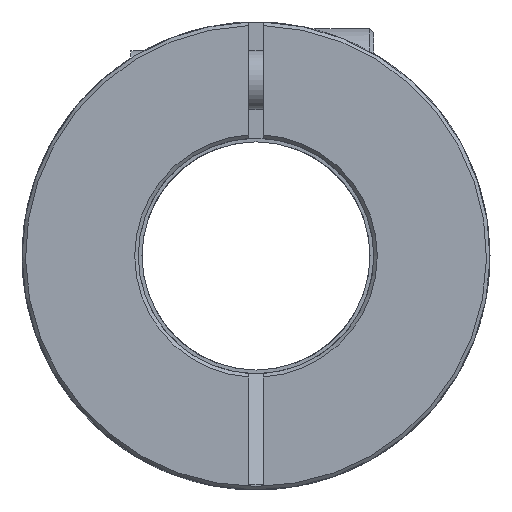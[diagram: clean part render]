
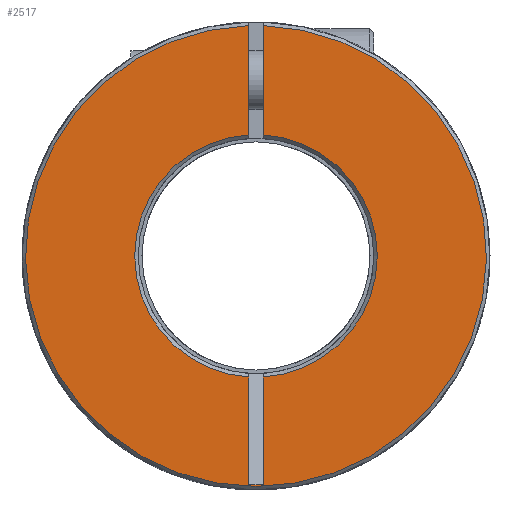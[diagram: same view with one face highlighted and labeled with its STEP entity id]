
A CAD part, front view. The second image highlights one B-rep face of the part: STEP entity #2517.
In plain terms, the highlighted planar face has unit normal (0, -1, 0).
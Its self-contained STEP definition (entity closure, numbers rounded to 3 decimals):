
#1=DIRECTION('',(0.,0.,-1.));
#2=VECTOR('',#1,7.427);
#3=CARTESIAN_POINT('',(-0.5,-19.,15.652));
#4=LINE('',#3,#2);
#5=DIRECTION('',(0.,0.,-1.));
#6=VECTOR('',#5,7.325);
#7=CARTESIAN_POINT('',(-0.5,-19.,-8.225));
#8=LINE('',#7,#6);
#9=DIRECTION('',(1.,0.,0.));
#10=VECTOR('',#9,1.);
#11=CARTESIAN_POINT('',(-0.5,-19.,-15.55));
#12=LINE('',#11,#10);
#13=DIRECTION('',(0.,0.,-1.));
#14=VECTOR('',#13,7.325);
#15=CARTESIAN_POINT('',(0.5,-19.,-8.225));
#16=LINE('',#15,#14);
#17=DIRECTION('',(0.,0.,-1.));
#18=VECTOR('',#17,7.427);
#19=CARTESIAN_POINT('',(0.5,-19.,15.652));
#20=LINE('',#19,#18);
#35=CARTESIAN_POINT('',(0.,-19.,0.));
#36=DIRECTION('',(0.,-1.,0.));
#37=DIRECTION('',(-0.032,0.,0.999));
#38=AXIS2_PLACEMENT_3D('',#35,#36,#37);
#80=CARTESIAN_POINT('',(0.,-19.,0.));
#81=DIRECTION('',(0.,1.,0.));
#82=DIRECTION('',(-0.061,0.,-0.998));
#83=AXIS2_PLACEMENT_3D('',#80,#81,#82);
#92=CARTESIAN_POINT('',(0.,-19.,0.));
#93=DIRECTION('',(0.,1.,0.));
#94=DIRECTION('',(0.061,0.,0.998));
#95=AXIS2_PLACEMENT_3D('',#92,#93,#94);
#2356=CARTESIAN_POINT('',(-0.5,-19.,15.652));
#2357=CARTESIAN_POINT('',(-0.5,-19.,8.225));
#2358=VERTEX_POINT('',#2356);
#2359=VERTEX_POINT('',#2357);
#2360=CARTESIAN_POINT('',(-0.5,-19.,-8.225));
#2361=CARTESIAN_POINT('',(-0.5,-19.,-15.55));
#2362=VERTEX_POINT('',#2360);
#2363=VERTEX_POINT('',#2361);
#2364=CARTESIAN_POINT('',(0.5,-19.,15.652));
#2365=CARTESIAN_POINT('',(0.5,-19.,8.225));
#2366=VERTEX_POINT('',#2364);
#2367=VERTEX_POINT('',#2365);
#2368=CARTESIAN_POINT('',(0.5,-19.,-8.225));
#2369=CARTESIAN_POINT('',(0.5,-19.,-15.55));
#2370=VERTEX_POINT('',#2368);
#2371=VERTEX_POINT('',#2369);
#2494=CARTESIAN_POINT('',(0.,-19.,0.));
#2495=DIRECTION('',(0.,1.,0.));
#2496=DIRECTION('',(1.,0.,0.));
#2497=AXIS2_PLACEMENT_3D('',#2494,#2495,#2496);
#2498=PLANE('',#2497);
#2500=ORIENTED_EDGE('',*,*,#2499,.T.);
#2502=ORIENTED_EDGE('',*,*,#2501,.F.);
#2504=ORIENTED_EDGE('',*,*,#2503,.T.);
#2506=ORIENTED_EDGE('',*,*,#2505,.T.);
#2508=ORIENTED_EDGE('',*,*,#2507,.F.);
#2510=ORIENTED_EDGE('',*,*,#2509,.F.);
#2512=ORIENTED_EDGE('',*,*,#2511,.F.);
#2514=ORIENTED_EDGE('',*,*,#2513,.F.);
#2515=EDGE_LOOP('',(#2500,#2502,#2504,#2506,#2508,#2510,#2512,#2514));
#2516=FACE_OUTER_BOUND('',#2515,.F.);
#2517=ADVANCED_FACE('',(#2516),#2498,.F.);
#39=CIRCLE('',#38,15.66);
#84=CIRCLE('',#83,8.24);
#96=CIRCLE('',#95,8.24);
#2499=EDGE_CURVE('',#2358,#2359,#4,.T.);
#2501=EDGE_CURVE('',#2362,#2359,#84,.T.);
#2503=EDGE_CURVE('',#2362,#2363,#8,.T.);
#2505=EDGE_CURVE('',#2363,#2371,#12,.T.);
#2507=EDGE_CURVE('',#2370,#2371,#16,.T.);
#2509=EDGE_CURVE('',#2367,#2370,#96,.T.);
#2511=EDGE_CURVE('',#2366,#2367,#20,.T.);
#2513=EDGE_CURVE('',#2358,#2366,#39,.T.);
